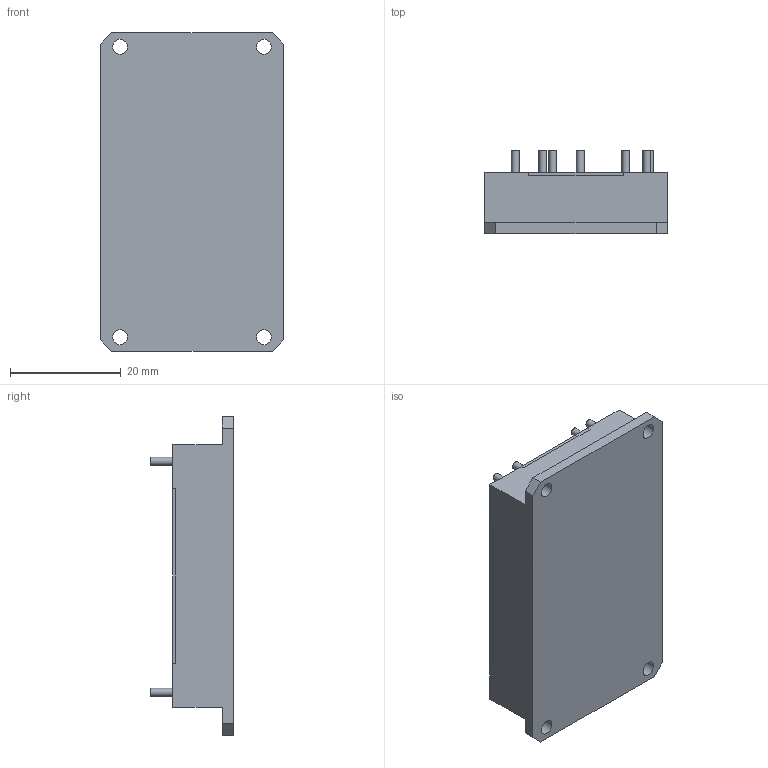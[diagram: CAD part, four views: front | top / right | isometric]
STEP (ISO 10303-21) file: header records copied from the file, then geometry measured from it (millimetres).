
FILE_DESCRIPTION(/* description */ (''),/* implementation_level */ '2;1');
FILE_NAME(/* name */ '',/* time_stamp */ '2022-03-21T11:12:10+01:00',/* author */ (''),/* organization */ (''),/* preprocessor_version */ 'ST-DEVELOPER v18.1',/* originating_system */ '',/* authorisation */ '');
FILE_SCHEMA (('AUTOMOTIVE_DESIGN { 1 0 10303 214 3 1 1 }'));
Length unit declared in the file: millimetre
Products named in the file (1): case_F3_v1_TESND100-S_pins
Bounding box: 33 x 15 x 57.5 mm (x, y, z)
Volume: 17883.8 mm3; surface area: 8850 mm2
Topology: 9 solids, 10 shells, 91 faces, 216 edges, 144 vertices
Faces by surface type: plane 71, cylinder 19, cone 1
Full cylindrical faces by diameter (mm): 1.4 x7, 2.7 x4
Entity records: 2651 total; most frequent: CARTESIAN_POINT 451, DIRECTION 438, ORIENTED_EDGE 430, EDGE_CURVE 215, LINE 176, VECTOR 176, VERTEX_POINT 144, AXIS2_PLACEMENT_3D 131
